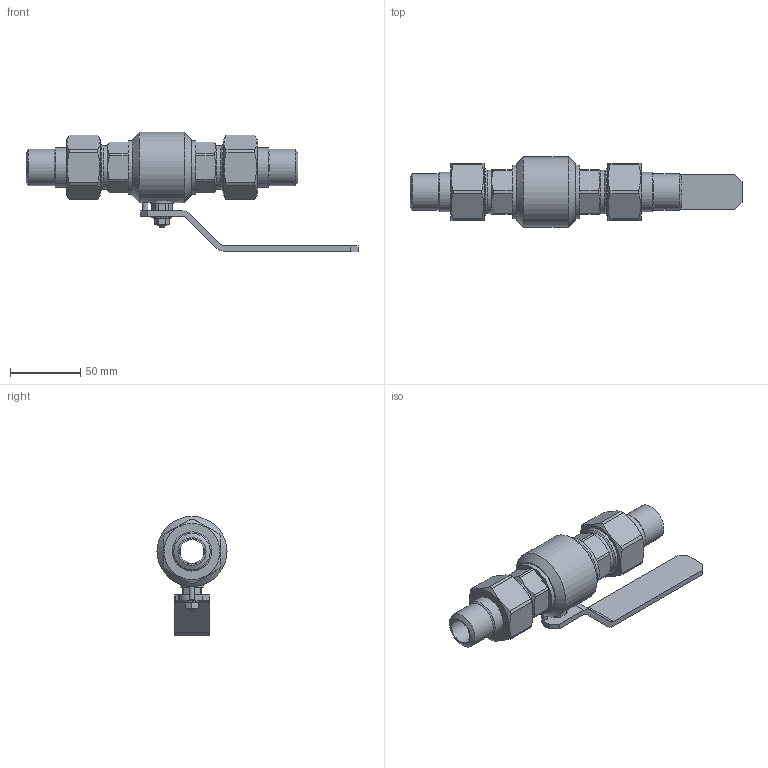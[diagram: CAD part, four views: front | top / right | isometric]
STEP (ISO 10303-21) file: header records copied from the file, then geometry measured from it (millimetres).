
FILE_DESCRIPTION(('STEP AP203'), '1');
FILE_NAME('ZARD 020.040.30.P.stp', '2013-12-05T12:52:39', ('1'), ('1'), 'ASCON STEP Converter 1.3', 'Kompas 3D', '');
FILE_SCHEMA(('CONFIG_CONTROL_DESIGN','SUPPORT_RESOURCE_SCHEMA'));
Length unit declared in the file: millimetre
Products named in the file (1): 191
Bounding box: 237 x 50 x 85 mm (x, y, z)
Volume: 177060 mm3; surface area: 58006.5 mm2
Topology: 1 solids, 5 shells, 235 faces, 564 edges, 352 vertices
Faces by surface type: plane 116, cylinder 72, cone 42, sphere 4, bspline 1
Full cylindrical faces by diameter (mm): 4 x2, 6 x2, 8.673 x1, 9 x1, 10 x1, 10.1 x1, 14.2 x1, 15.8 x1, 16 x3, 17 x2, 18 x2, 26 x4, 28 x2, 30.8 x2, 31 x2, 31.4 x1, 33 x4, 38.5 x2, 50 x1
Entity records: 9539 total; most frequent: CARTESIAN_POINT 3898, DIRECTION 1203, ORIENTED_EDGE 1126, EDGE_CURVE 563, AXIS2_PLACEMENT_3D 466, VERTEX_POINT 352, LINE 271, VECTOR 271
